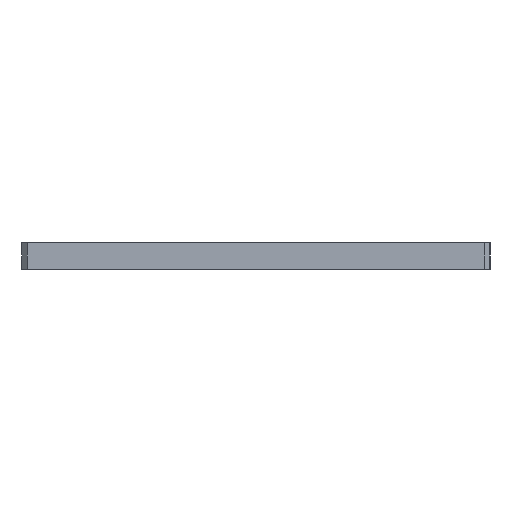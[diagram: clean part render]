
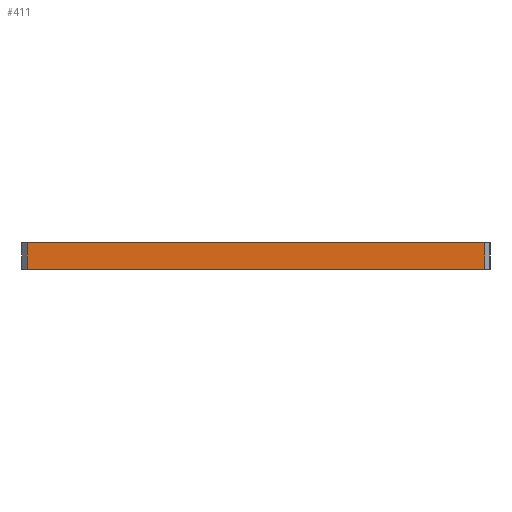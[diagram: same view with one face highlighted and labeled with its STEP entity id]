
A CAD part, left-side view. The second image highlights one B-rep face of the part: STEP entity #411.
In plain terms, the highlighted planar face has unit normal (-1, 0, 0).
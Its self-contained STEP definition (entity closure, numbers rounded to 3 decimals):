
#384=AXIS2_PLACEMENT_3D('Plane Axis2P3D',#381,#382,#383) ;
#94=CARTESIAN_POINT('Line Origine',(0.,-87.5,10.)) ;
#98=CARTESIAN_POINT('Vertex',(0.,-2.,10.)) ;
#100=CARTESIAN_POINT('Vertex',(0.,-173.,10.)) ;
#381=CARTESIAN_POINT('Axis2P3D Location',(0.,0.,0.)) ;
#386=CARTESIAN_POINT('Line Origine',(0.,-87.5,0.)) ;
#390=CARTESIAN_POINT('Vertex',(0.,-2.,0.)) ;
#392=CARTESIAN_POINT('Vertex',(0.,-173.,0.)) ;
#395=CARTESIAN_POINT('Line Origine',(0.,-173.,5.)) ;
#400=CARTESIAN_POINT('Line Origine',(0.,-2.,5.)) ;
#95=DIRECTION('Vector Direction',(0.,-1.,0.)) ;
#382=DIRECTION('Axis2P3D Direction',(-1.,0.,0.)) ;
#383=DIRECTION('Axis2P3D XDirection',(0.,-1.,0.)) ;
#387=DIRECTION('Vector Direction',(0.,-1.,0.)) ;
#396=DIRECTION('Vector Direction',(0.,0.,1.)) ;
#401=DIRECTION('Vector Direction',(0.,0.,1.)) ;
#96=VECTOR('Line Direction',#95,1.) ;
#388=VECTOR('Line Direction',#387,1.) ;
#397=VECTOR('Line Direction',#396,1.) ;
#402=VECTOR('Line Direction',#401,1.) ;
#406=ORIENTED_EDGE('',*,*,#394,.T.) ;
#407=ORIENTED_EDGE('',*,*,#399,.T.) ;
#408=ORIENTED_EDGE('',*,*,#102,.F.) ;
#409=ORIENTED_EDGE('',*,*,#404,.F.) ;
#411=ADVANCED_FACE('\X2\96F64EF651E04F554F53\X0\',(#410),#385,.T.) ;
#102=EDGE_CURVE('',#99,#101,#97,.T.) ;
#394=EDGE_CURVE('',#391,#393,#389,.T.) ;
#399=EDGE_CURVE('',#393,#101,#398,.T.) ;
#404=EDGE_CURVE('',#391,#99,#403,.T.) ;
#405=EDGE_LOOP('',(#406,#407,#408,#409)) ;
#410=FACE_OUTER_BOUND('',#405,.T.) ;
#97=LINE('Line',#94,#96) ;
#389=LINE('Line',#386,#388) ;
#398=LINE('Line',#395,#397) ;
#403=LINE('Line',#400,#402) ;
#385=PLANE('',#384) ;
#99=VERTEX_POINT('',#98) ;
#101=VERTEX_POINT('',#100) ;
#391=VERTEX_POINT('',#390) ;
#393=VERTEX_POINT('',#392) ;
